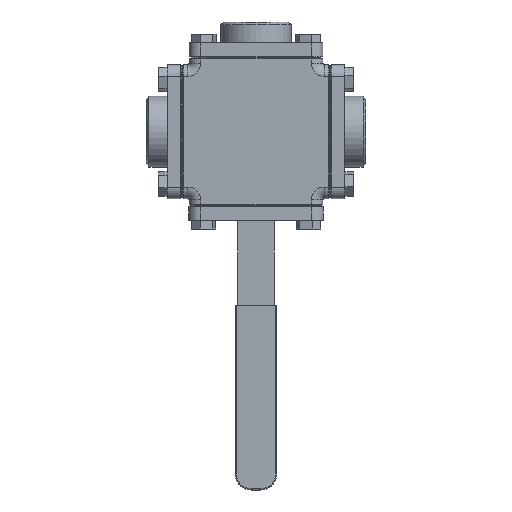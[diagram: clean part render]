
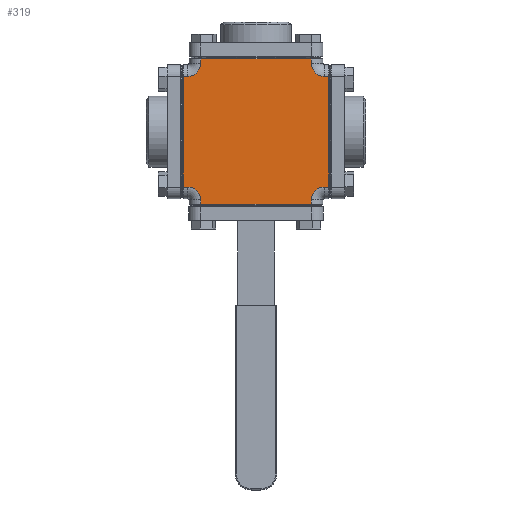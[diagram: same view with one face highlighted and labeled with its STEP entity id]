
A CAD part, front view. The second image highlights one B-rep face of the part: STEP entity #319.
In plain terms, the highlighted planar face has unit normal (0, -1, 0).
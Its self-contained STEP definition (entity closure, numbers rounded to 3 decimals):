
#3 = EDGE_CURVE ( 'NONE', #1920, #1492, #2544, .T. ) ;
#6 = EDGE_CURVE ( 'NONE', #1953, #1920, #2552, .T. ) ;
#7 = EDGE_CURVE ( 'NONE', #983, #1776, #2548, .T. ) ;
#9 = EDGE_CURVE ( 'NONE', #1895, #1282, #2554, .T. ) ;
#10 = EDGE_CURVE ( 'NONE', #1776, #1895, #2558, .T. ) ;
#11 = EDGE_CURVE ( 'NONE', #1755, #1745, #2553, .T. ) ;
#319 = ADVANCED_FACE ( 'NONE', ( #7068 ), #11742, .F. ) ;
#508 = CARTESIAN_POINT ( 'NONE',  ( 63., -58., -48. ) ) ;
#509 = DIRECTION ( 'NONE',  ( 1., 0., 0. ) ) ;
#983 = VERTEX_POINT ( 'NONE', #12391 ) ;
#994 = VERTEX_POINT ( 'NONE', #12396 ) ;
#1024 = DIRECTION ( 'NONE',  ( 1., 0., 0. ) ) ;
#1026 = CARTESIAN_POINT ( 'NONE',  ( 59., -58., -59. ) ) ;
#1043 = DIRECTION ( 'NONE',  ( 0., 1., 0. ) ) ;
#1045 = DIRECTION ( 'NONE',  ( 0., 0., 1. ) ) ;
#1155 = CARTESIAN_POINT ( 'NONE',  ( -59., -58., -59. ) ) ;
#1165 = CARTESIAN_POINT ( 'NONE',  ( 63., -58., -48. ) ) ;
#1166 = DIRECTION ( 'NONE',  ( 0., 0., -1. ) ) ;
#1245 = DIRECTION ( 'NONE',  ( -1., 0., 0. ) ) ;
#1282 = VERTEX_POINT ( 'NONE', #12666 ) ;
#1337 = VERTEX_POINT ( 'NONE', #12728 ) ;
#1483 = DIRECTION ( 'NONE',  ( 0., 0., 1. ) ) ;
#1489 = CARTESIAN_POINT ( 'NONE',  ( 63., -58., 48. ) ) ;
#1492 = VERTEX_POINT ( 'NONE', #12862 ) ;
#1513 = VERTEX_POINT ( 'NONE', #12895 ) ;
#1571 = CARTESIAN_POINT ( 'NONE',  ( -48., -58., 58. ) ) ;
#1586 = DIRECTION ( 'NONE',  ( 0., 0., 1. ) ) ;
#1609 = CARTESIAN_POINT ( 'NONE',  ( 48., -58., 58. ) ) ;
#1614 = VERTEX_POINT ( 'NONE', #13014 ) ;
#1624 = DIRECTION ( 'NONE',  ( 0., 1., 0. ) ) ;
#1745 = VERTEX_POINT ( 'NONE', #13124 ) ;
#1755 = VERTEX_POINT ( 'NONE', #13133 ) ;
#1776 = VERTEX_POINT ( 'NONE', #13166 ) ;
#1784 = VERTEX_POINT ( 'NONE', #13179 ) ;
#1845 = VERTEX_POINT ( 'NONE', #13269 ) ;
#1895 = VERTEX_POINT ( 'NONE', #13315 ) ;
#1920 = VERTEX_POINT ( 'NONE', #13351 ) ;
#1953 = VERTEX_POINT ( 'NONE', #13412 ) ;
#2117 = VERTEX_POINT ( 'NONE', #13591 ) ;
#2544 = LINE ( 'NONE', #1571, #2546 ) ;
#2545 = VECTOR ( 'NONE', #1045, 1000. ) ;
#2546 = VECTOR ( 'NONE', #1166, 1000. ) ;
#2548 = LINE ( 'NONE', #1609, #2545 ) ;
#2549 = VECTOR ( 'NONE', #1024, 1000. ) ;
#2550 = VECTOR ( 'NONE', #1245, 1000. ) ;
#2552 = CIRCLE ( 'NONE', #9422, 11. ) ;
#2553 = LINE ( 'NONE', #1489, #2550 ) ;
#2554 = LINE ( 'NONE', #1165, #2549 ) ;
#2558 = CIRCLE ( 'NONE', #9424, 11. ) ;
#2860 = EDGE_LOOP ( 'NONE', ( #3029, #3030, #3031, #3032, #3033, #3034, #3035, #3036, #3037, #3038, #3039, #3040, #3041, #3042, #3043, #3044 ) ) ;
#3029 = ORIENTED_EDGE ( 'NONE', *, *, #9412, .T. ) ;
#3030 = ORIENTED_EDGE ( 'NONE', *, *, #9411, .T. ) ;
#3031 = ORIENTED_EDGE ( 'NONE', *, *, #9375, .F. ) ;
#3032 = ORIENTED_EDGE ( 'NONE', *, *, #9413, .T. ) ;
#3033 = ORIENTED_EDGE ( 'NONE', *, *, #9410, .T. ) ;
#3034 = ORIENTED_EDGE ( 'NONE', *, *, #9404, .T. ) ;
#3035 = ORIENTED_EDGE ( 'NONE', *, *, #9366, .F. ) ;
#3036 = ORIENTED_EDGE ( 'NONE', *, *, #10345, .T. ) ;
#3037 = ORIENTED_EDGE ( 'NONE', *, *, #6, .T. ) ;
#3038 = ORIENTED_EDGE ( 'NONE', *, *, #3, .T. ) ;
#3039 = ORIENTED_EDGE ( 'NONE', *, *, #9359, .F. ) ;
#3040 = ORIENTED_EDGE ( 'NONE', *, *, #7, .T. ) ;
#3041 = ORIENTED_EDGE ( 'NONE', *, *, #10, .T. ) ;
#3042 = ORIENTED_EDGE ( 'NONE', *, *, #9, .T. ) ;
#3043 = ORIENTED_EDGE ( 'NONE', *, *, #9407, .F. ) ;
#3044 = ORIENTED_EDGE ( 'NONE', *, *, #11, .T. ) ;
#4213 = AXIS2_PLACEMENT_3D ( 'NONE', #8519, #8526, #8527 ) ;
#4215 = AXIS2_PLACEMENT_3D ( 'NONE', #8522, #8530, #8531 ) ;
#6156 = LINE ( 'NONE', #508, #6157 ) ;
#6157 = VECTOR ( 'NONE', #509, 1000. ) ;
#7068 = FACE_OUTER_BOUND ( 'NONE', #2860, .T. ) ;
#7699 = LINE ( 'NONE', #8401, #7707 ) ;
#7707 = VECTOR ( 'NONE', #8402, 1000. ) ;
#7714 = LINE ( 'NONE', #8420, #7718 ) ;
#7718 = VECTOR ( 'NONE', #8421, 1000. ) ;
#7727 = LINE ( 'NONE', #8443, #7731 ) ;
#7731 = VECTOR ( 'NONE', #8444, 1000. ) ;
#7776 = LINE ( 'NONE', #8509, #7779 ) ;
#7779 = VECTOR ( 'NONE', #8510, 1000. ) ;
#7781 = LINE ( 'NONE', #8517, #7783 ) ;
#7783 = VECTOR ( 'NONE', #8518, 1000. ) ;
#7785 = LINE ( 'NONE', #8532, #7792 ) ;
#7787 = LINE ( 'NONE', #8528, #7790 ) ;
#7790 = VECTOR ( 'NONE', #8529, 1000. ) ;
#7792 = VECTOR ( 'NONE', #8533, 1000. ) ;
#7793 = CIRCLE ( 'NONE', #4213, 11. ) ;
#7796 = CIRCLE ( 'NONE', #4215, 11. ) ;
#8401 = CARTESIAN_POINT ( 'NONE',  ( 58., -58., -63. ) ) ;
#8402 = DIRECTION ( 'NONE',  ( -1., 0., 0. ) ) ;
#8420 = CARTESIAN_POINT ( 'NONE',  ( -63., -58., -58. ) ) ;
#8421 = DIRECTION ( 'NONE',  ( 0., 0., 1. ) ) ;
#8443 = CARTESIAN_POINT ( 'NONE',  ( -58., -58., 63. ) ) ;
#8444 = DIRECTION ( 'NONE',  ( 1., 0., 0. ) ) ;
#8509 = CARTESIAN_POINT ( 'NONE',  ( 63., -58., 48. ) ) ;
#8510 = DIRECTION ( 'NONE',  ( -1., 0., 0. ) ) ;
#8517 = CARTESIAN_POINT ( 'NONE',  ( 63., -58., 58. ) ) ;
#8518 = DIRECTION ( 'NONE',  ( 0., 0., -1. ) ) ;
#8519 = CARTESIAN_POINT ( 'NONE',  ( -59., -58., 59. ) ) ;
#8522 = CARTESIAN_POINT ( 'NONE',  ( 59., -58., 59. ) ) ;
#8526 = DIRECTION ( 'NONE',  ( 0., 1., 0. ) ) ;
#8527 = DIRECTION ( 'NONE',  ( 0., 0., 1. ) ) ;
#8528 = CARTESIAN_POINT ( 'NONE',  ( 48., -58., 58. ) ) ;
#8529 = DIRECTION ( 'NONE',  ( 0., 0., 1. ) ) ;
#8530 = DIRECTION ( 'NONE',  ( 0., 1., 0. ) ) ;
#8531 = DIRECTION ( 'NONE',  ( 0., 0., 1. ) ) ;
#8532 = CARTESIAN_POINT ( 'NONE',  ( -48., -58., 58. ) ) ;
#8533 = DIRECTION ( 'NONE',  ( 0., 0., -1. ) ) ;
#9359 = EDGE_CURVE ( 'NONE', #983, #1492, #7699, .T. ) ;
#9366 = EDGE_CURVE ( 'NONE', #1337, #1784, #7714, .T. ) ;
#9375 = EDGE_CURVE ( 'NONE', #2117, #1845, #7727, .T. ) ;
#9404 = EDGE_CURVE ( 'NONE', #994, #1784, #7776, .T. ) ;
#9407 = EDGE_CURVE ( 'NONE', #1755, #1282, #7781, .T. ) ;
#9410 = EDGE_CURVE ( 'NONE', #1513, #994, #7793, .T. ) ;
#9411 = EDGE_CURVE ( 'NONE', #1614, #1845, #7787, .T. ) ;
#9412 = EDGE_CURVE ( 'NONE', #1745, #1614, #7796, .T. ) ;
#9413 = EDGE_CURVE ( 'NONE', #2117, #1513, #7785, .T. ) ;
#9422 = AXIS2_PLACEMENT_3D ( 'NONE', #1155, #1624, #1586 ) ;
#9424 = AXIS2_PLACEMENT_3D ( 'NONE', #1026, #1043, #1483 ) ;
#9634 = AXIS2_PLACEMENT_3D ( 'NONE', #11659, #11749, #11750 ) ;
#10345 = EDGE_CURVE ( 'NONE', #1337, #1953, #6156, .T. ) ;
#11659 = CARTESIAN_POINT ( 'NONE',  ( 63., -58., 58. ) ) ;
#11742 = PLANE ( 'NONE',  #9634 ) ;
#11749 = DIRECTION ( 'NONE',  ( 0., 1., 0. ) ) ;
#11750 = DIRECTION ( 'NONE',  ( 0., 0., 1. ) ) ;
#12391 = CARTESIAN_POINT ( 'NONE',  ( 48., -58., -63. ) ) ;
#12396 = CARTESIAN_POINT ( 'NONE',  ( -59., -58., 48. ) ) ;
#12666 = CARTESIAN_POINT ( 'NONE',  ( 63., -58., -48. ) ) ;
#12728 = CARTESIAN_POINT ( 'NONE',  ( -63., -58., -48. ) ) ;
#12862 = CARTESIAN_POINT ( 'NONE',  ( -48., -58., -63. ) ) ;
#12895 = CARTESIAN_POINT ( 'NONE',  ( -48., -58., 59. ) ) ;
#13014 = CARTESIAN_POINT ( 'NONE',  ( 48., -58., 59. ) ) ;
#13124 = CARTESIAN_POINT ( 'NONE',  ( 59., -58., 48. ) ) ;
#13133 = CARTESIAN_POINT ( 'NONE',  ( 63., -58., 48. ) ) ;
#13166 = CARTESIAN_POINT ( 'NONE',  ( 48., -58., -59. ) ) ;
#13179 = CARTESIAN_POINT ( 'NONE',  ( -63., -58., 48. ) ) ;
#13269 = CARTESIAN_POINT ( 'NONE',  ( 48., -58., 63. ) ) ;
#13315 = CARTESIAN_POINT ( 'NONE',  ( 59., -58., -48. ) ) ;
#13351 = CARTESIAN_POINT ( 'NONE',  ( -48., -58., -59. ) ) ;
#13412 = CARTESIAN_POINT ( 'NONE',  ( -59., -58., -48. ) ) ;
#13591 = CARTESIAN_POINT ( 'NONE',  ( -48., -58., 63. ) ) ;
